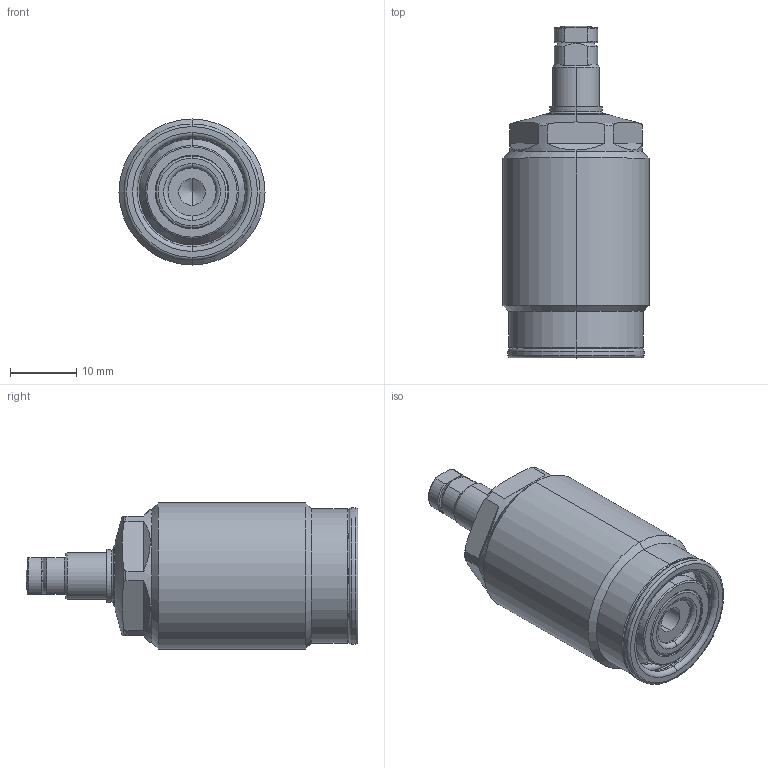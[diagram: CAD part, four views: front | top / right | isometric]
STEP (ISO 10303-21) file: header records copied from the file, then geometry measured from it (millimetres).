
FILE_DESCRIPTION(/* description */ (''),/* implementation_level */ '2;1');
FILE_NAME(/* name */ 'TSS22-S.stp',/* time_stamp */ '2026-02-04T13:22:33+08:00',/* author */ (''),/* organization */ (''),/* preprocessor_version */ 'ST-DEVELOPER v16.7',/* originating_system */ 'SIEMENS PLM Software NX 12.0',/* authorisation */ '');
FILE_SCHEMA (('AUTOMOTIVE_DESIGN { 1 0 10303 214 3 1 1 1 }'));
Length unit declared in the file: millimetre
Products named in the file (7): XLD-M4_Oring4215; XLD-M4_contactbolt2253; AS568-017(90); TSS22-S-01; TSS22-S-02; TSS22-S-03; TSS22-S_stp
Assembly tree (6 placements, depth 3):
  TSS22-S_stp
    TSS22-S-03
      XLD-M4_contactbolt2253
      XLD-M4_Oring4215
    TSS22-S-02
    TSS22-S-01
    AS568-017(90)
Bounding box: 22 x 50 x 22 mm (x, y, z)
Volume: 12593.5 mm3; surface area: 4698.4 mm2
Topology: 5 solids, 5 shells, 171 faces, 374 edges, 220 vertices
Faces by surface type: torus 60, cylinder 42, plane 35, cone 32, sphere 2
Entity records: 5166 total; most frequent: CARTESIAN_POINT 1178, DIRECTION 912, ORIENTED_EDGE 744, AXIS2_PLACEMENT_3D 406, EDGE_CURVE 372, CIRCLE 228, VERTEX_POINT 220, EDGE_LOOP 184
